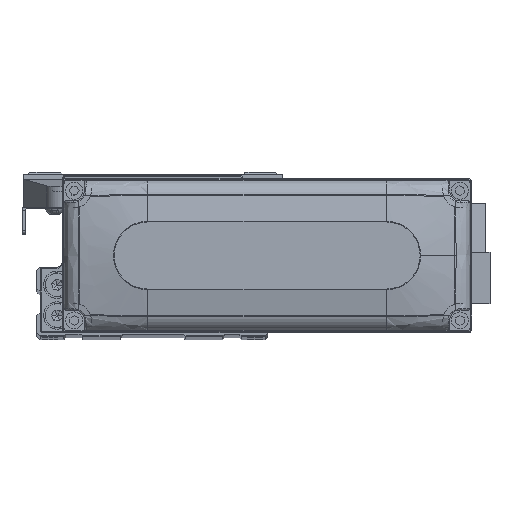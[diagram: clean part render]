
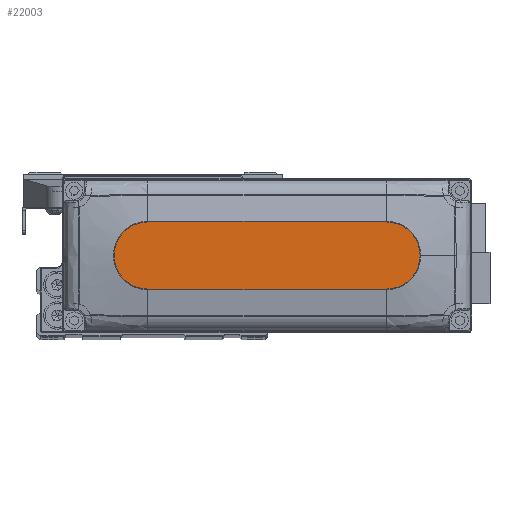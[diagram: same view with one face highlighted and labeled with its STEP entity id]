
A CAD part, top view. The second image highlights one B-rep face of the part: STEP entity #22003.
In plain terms, the highlighted planar face has unit normal (0, 0, 1).
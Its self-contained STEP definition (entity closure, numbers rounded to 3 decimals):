
#1995 = CIRCLE ( 'NONE', #27520, 10. ) ;
#2189 = DIRECTION ( 'NONE',  ( 1., 0., 0. ) ) ;
#2392 = ORIENTED_EDGE ( 'NONE', *, *, #3798, .T. ) ;
#2784 = VECTOR ( 'NONE', #33737, 1000. ) ;
#3798 = EDGE_CURVE ( 'NONE', #13610, #45047, #14807, .T. ) ;
#5208 = CARTESIAN_POINT ( 'NONE',  ( -35., 0., 28. ) ) ;
#5632 = PLANE ( 'NONE',  #34717 ) ;
#5880 = LINE ( 'NONE', #19804, #2784 ) ;
#6383 = CARTESIAN_POINT ( 'NONE',  ( 45., 0., 28. ) ) ;
#7783 = EDGE_CURVE ( 'NONE', #14495, #13610, #30903, .T. ) ;
#8550 = CARTESIAN_POINT ( 'NONE',  ( -35., 10., 28. ) ) ;
#9904 = DIRECTION ( 'NONE',  ( 0., 0., 1. ) ) ;
#13379 = DIRECTION ( 'NONE',  ( 0., 0., 1. ) ) ;
#13430 = CIRCLE ( 'NONE', #38925, 10. ) ;
#13560 = DIRECTION ( 'NONE',  ( 1., 0., 0. ) ) ;
#13610 = VERTEX_POINT ( 'NONE', #18875 ) ;
#14495 = VERTEX_POINT ( 'NONE', #15127 ) ;
#14807 = CIRCLE ( 'NONE', #40324, 10. ) ;
#15127 = CARTESIAN_POINT ( 'NONE',  ( -35., -10., 28. ) ) ;
#18872 = ORIENTED_EDGE ( 'NONE', *, *, #29585, .T. ) ;
#18875 = CARTESIAN_POINT ( 'NONE',  ( 35., -10., 28. ) ) ;
#19135 = DIRECTION ( 'NONE',  ( 0., 0., 1. ) ) ;
#19549 = CARTESIAN_POINT ( 'NONE',  ( 0., 0., 28. ) ) ;
#19804 = CARTESIAN_POINT ( 'NONE',  ( -35., 10., 28. ) ) ;
#21401 = CARTESIAN_POINT ( 'NONE',  ( 35., 10., 28. ) ) ;
#21980 = ORIENTED_EDGE ( 'NONE', *, *, #37452, .T. ) ;
#22003 = ADVANCED_FACE ( 'NONE', ( #36899 ), #5632, .T. ) ;
#23364 = VECTOR ( 'NONE', #13560, 1000. ) ;
#23831 = DIRECTION ( 'NONE',  ( 1., 0., 0. ) ) ;
#26747 = EDGE_LOOP ( 'NONE', ( #44554, #18872, #44875, #2392, #21980 ) ) ;
#27298 = DIRECTION ( 'NONE',  ( 1., 0., 0. ) ) ;
#27520 = AXIS2_PLACEMENT_3D ( 'NONE', #44632, #13379, #27298 ) ;
#29585 = EDGE_CURVE ( 'NONE', #38938, #14495, #13430, .T. ) ;
#30903 = LINE ( 'NONE', #44808, #23364 ) ;
#33063 = DIRECTION ( 'NONE',  ( 1., 0., 0. ) ) ;
#33469 = DIRECTION ( 'NONE',  ( 0., 0., 1. ) ) ;
#33737 = DIRECTION ( 'NONE',  ( -1., 0., 0. ) ) ;
#34717 = AXIS2_PLACEMENT_3D ( 'NONE', #19549, #33469, #2189 ) ;
#36899 = FACE_OUTER_BOUND ( 'NONE', #26747, .T. ) ;
#37138 = VERTEX_POINT ( 'NONE', #21401 ) ;
#37452 = EDGE_CURVE ( 'NONE', #45047, #37138, #1995, .T. ) ;
#38925 = AXIS2_PLACEMENT_3D ( 'NONE', #5208, #19135, #33063 ) ;
#38938 = VERTEX_POINT ( 'NONE', #8550 ) ;
#40324 = AXIS2_PLACEMENT_3D ( 'NONE', #41168, #9904, #23831 ) ;
#40688 = EDGE_CURVE ( 'NONE', #37138, #38938, #5880, .T. ) ;
#41168 = CARTESIAN_POINT ( 'NONE',  ( 35., 0., 28. ) ) ;
#44554 = ORIENTED_EDGE ( 'NONE', *, *, #40688, .T. ) ;
#44632 = CARTESIAN_POINT ( 'NONE',  ( 35., 0., 28. ) ) ;
#44808 = CARTESIAN_POINT ( 'NONE',  ( -35., -10., 28. ) ) ;
#44875 = ORIENTED_EDGE ( 'NONE', *, *, #7783, .T. ) ;
#45047 = VERTEX_POINT ( 'NONE', #6383 ) ;
